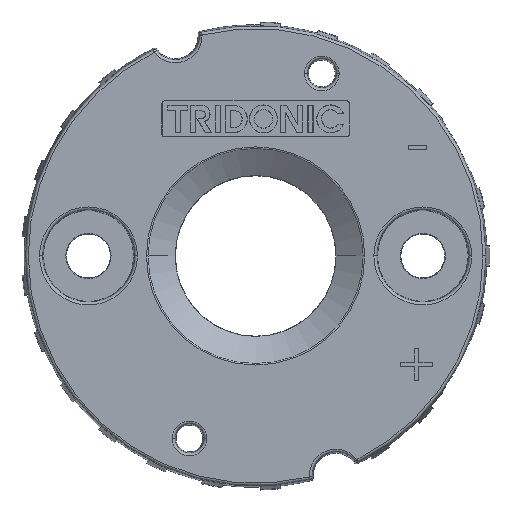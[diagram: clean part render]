
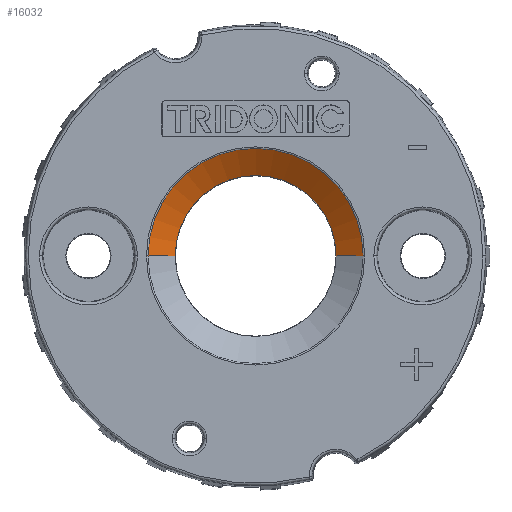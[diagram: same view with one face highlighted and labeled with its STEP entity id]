
A CAD part, top view. The second image highlights one B-rep face of the part: STEP entity #16032.
In plain terms, the highlighted conical face has half-angle 56.5 degrees and reference radius 7.04 mm.
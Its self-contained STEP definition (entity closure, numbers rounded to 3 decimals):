
#5260=DIRECTION('',(-0.834,0.,-0.552));
#5261=VECTOR('',#5260,2.416);
#5262=CARTESIAN_POINT('',(8.047,0.,2.967));
#5263=LINE('',#5262,#5261);
#5267=DIRECTION('',(0.834,0.,-0.552));
#5268=VECTOR('',#5267,2.416);
#5269=CARTESIAN_POINT('',(-8.047,0.,2.967));
#5270=LINE('',#5269,#5268);
#5274=CARTESIAN_POINT('',(0.,0.,1.633));
#5275=DIRECTION('',(0.,0.,-1.));
#5276=DIRECTION('',(-1.,0.,0.));
#5277=AXIS2_PLACEMENT_3D('',#5274,#5275,#5276);
#5290=CARTESIAN_POINT('',(0.,0.,2.967));
#5291=DIRECTION('',(0.,0.,-1.));
#5292=DIRECTION('',(-1.,0.,0.));
#5293=AXIS2_PLACEMENT_3D('',#5290,#5291,#5292);
#13514=CARTESIAN_POINT('',(8.047,0.,2.967));
#13515=CARTESIAN_POINT('',(-8.047,0.,2.967));
#13516=VERTEX_POINT('',#13514);
#13517=VERTEX_POINT('',#13515);
#13573=CARTESIAN_POINT('',(6.033,0.,1.633));
#13574=CARTESIAN_POINT('',(-6.033,0.,1.633));
#13575=VERTEX_POINT('',#13573);
#13576=VERTEX_POINT('',#13574);
#16020=CARTESIAN_POINT('',(0.,0.,2.3));
#16021=DIRECTION('',(0.,0.,1.));
#16022=DIRECTION('',(1.,0.,0.));
#16023=AXIS2_PLACEMENT_3D('',#16020,#16021,#16022);
#16024=CONICAL_SURFACE('',#16023,7.04,56.5);
#16025=ORIENTED_EDGE('',*,*,#16015,.F.);
#16027=ORIENTED_EDGE('',*,*,#16026,.T.);
#16028=ORIENTED_EDGE('',*,*,#16011,.T.);
#16029=ORIENTED_EDGE('',*,*,#15985,.F.);
#16030=EDGE_LOOP('',(#16025,#16027,#16028,#16029));
#16031=FACE_OUTER_BOUND('',#16030,.F.);
#5278=CIRCLE('',#5277,6.033);
#5294=CIRCLE('',#5293,8.047);
#15985=EDGE_CURVE('',#13576,#13575,#5278,.T.);
#16011=EDGE_CURVE('',#13516,#13575,#5263,.T.);
#16015=EDGE_CURVE('',#13517,#13576,#5270,.T.);
#16026=EDGE_CURVE('',#13517,#13516,#5294,.T.);
#16032=ADVANCED_FACE('',(#16031),#16024,.F.);
